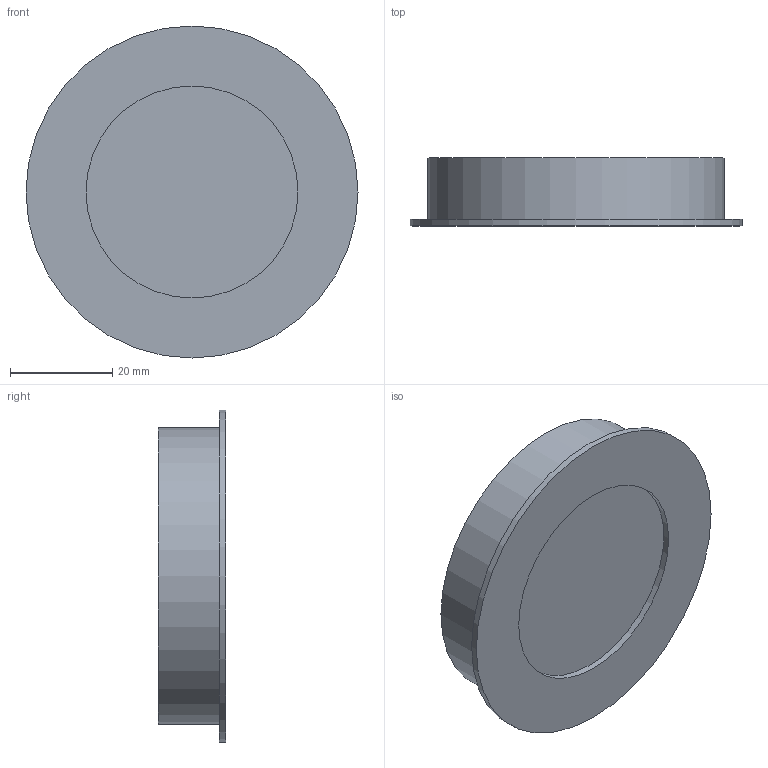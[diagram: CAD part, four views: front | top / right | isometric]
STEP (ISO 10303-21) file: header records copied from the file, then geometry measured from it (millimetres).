
FILE_DESCRIPTION (( 'STEP AP203' ), '1' );
FILE_NAME ('CAD_EcoPower Flood.STEP', '2020-06-23T09:47:45', ( '' ), ( '' ), 'SwSTEP 2.0', 'SolidWorks 2019', '' );
FILE_SCHEMA (( 'CONFIG_CONTROL_DESIGN' ));
Length unit declared in the file: millimetre
Products named in the file (1): CAD_EcoPower Flood
Bounding box: 65 x 13.3 x 65 mm (x, y, z)
Volume: 34260.3 mm3; surface area: 9258.1 mm2
Topology: 1 solids, 1 shells, 7 faces, 9 edges, 6 vertices
Faces by surface type: plane 4, cylinder 3
Full cylindrical faces by diameter (mm): 41.5 x1, 58 x1, 65 x1
Entity records: 211 total; most frequent: DIRECTION 28, CARTESIAN_POINT 20, AXIS2_PLACEMENT_3D 14, EDGE_LOOP 12, ORIENTED_EDGE 12, FACE_OUTER_BOUND 10, PERSON_AND_ORGANIZATION 8, ADVANCED_FACE 7
